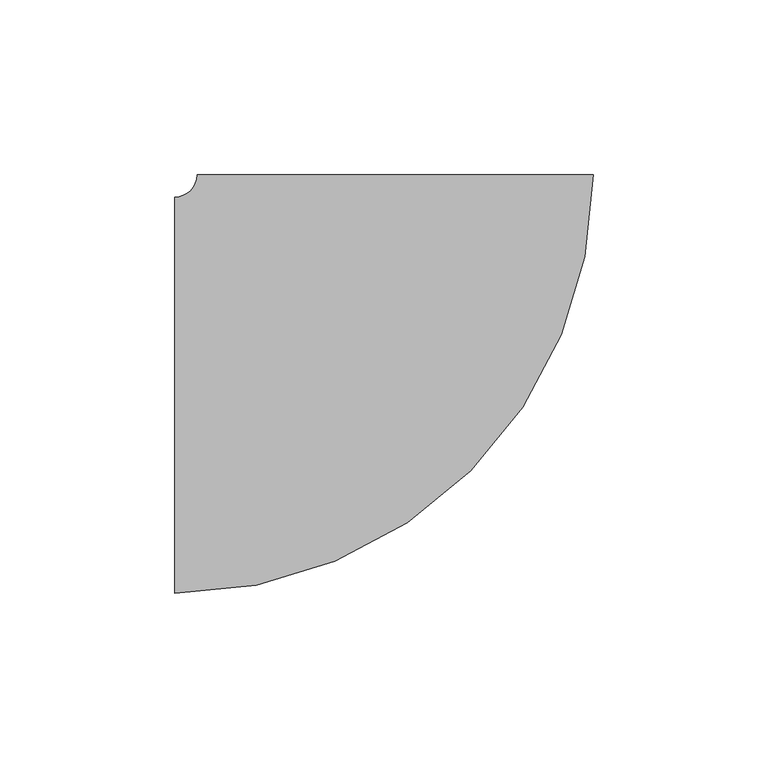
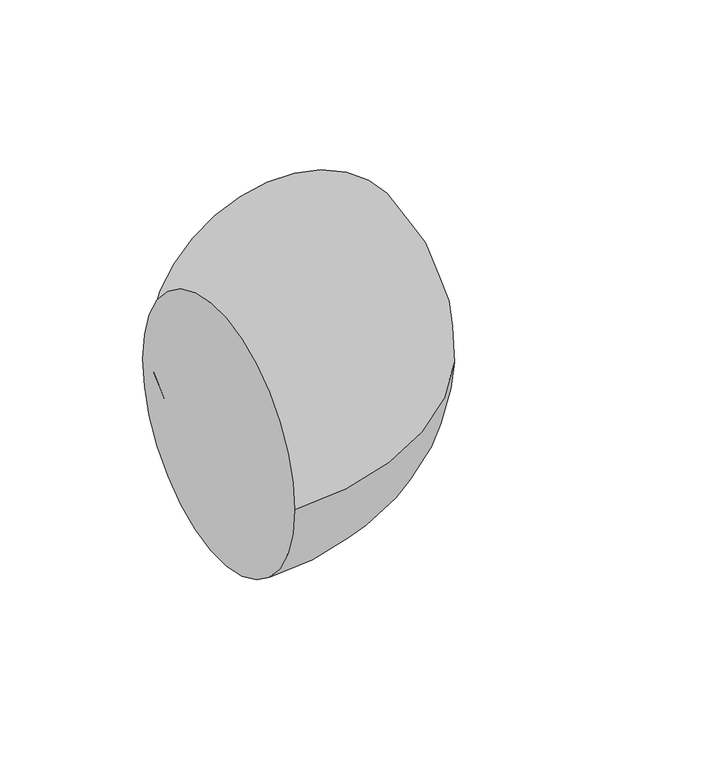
"""IFC4 building model written with IfcOpenShell, lengths in millimetres: pipe fitting geometry, M_Codo - Genérico : Estándar."""

from ifc_helpers import new_model, si_unit, point, frame, origin, place, context, project, spatial, circle_curve, ellipse_curve, trimmed, source, transform, mapped, element, save
from ifc_brep_helpers import plane_surface, revolved_surface, advanced_brep


def pipe_fitting_9c2f0113(model_context):
    return source(origin(), model_context, "Body", "AdvancedBrep", [
        advanced_brep(
        [(-62.9401141, -56.5875, 0.0), (-62.9401141, 56.5875, 0.0), (56.5848858, 62.9424644, 0.0), (-56.5901141, 62.9377637, 0.0)],
        [
            (0, 1, circle_curve(frame((-62.9401141, 0.0, 0.0), z_axis=(-1.0, 0.0, 0.0), x_axis=(0.0, 1.0, 0.0)), 56.5875)),
            (1, 0, circle_curve(frame((-62.9401141, 0.0, 0.0), z_axis=(-1.0, 0.0, 0.0), x_axis=(0.0, 1.0, 0.0)), 56.5875)),
            (2, 3, circle_curve(frame((-0.0026142, 62.9401141, 0.0), z_axis=(-4.153468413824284e-05, 0.999999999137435, 0.0), x_axis=(-0.999999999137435, -4.153468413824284e-05, 0.0)), 56.5875)),
            (3, 2, circle_curve(frame((-0.0026142, 62.9401141, 0.0), z_axis=(-4.153468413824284e-05, 0.999999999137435, 0.0), x_axis=(-0.999999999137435, -4.153468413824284e-05, 0.0)), 56.5875)),
            (3, 1, circle_curve(frame((-62.9401141, 62.9375, 0.0), z_axis=(0.0, 0.0, -1.0), x_axis=(0.0, -1.0, 0.0)), 6.35)),
            (0, 2, circle_curve(frame((-62.9401141, 62.9375, 0.0), z_axis=(0.0, 0.0, 1.0), x_axis=(0.0, -1.0, 0.0)), 119.525)),
        ],
        [
            plane_surface(frame((-62.9401141, 0.0, 0.0), z_axis=(-1.0, 0.0, 0.0), x_axis=(0.0, 0.0, 1.0))),
            plane_surface(frame((-0.0026142, 62.9401141, 0.0), z_axis=(-4.1534684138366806e-05, 0.9999999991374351, 0.0), x_axis=(0.0, 0.0, 1.0))),
            revolved_surface(trimmed(ellipse_curve(frame((-62.9401141, 0.0, 0.0), z_axis=(-1.0, 0.0, 0.0), x_axis=(0.0, 1.0, 0.0)), 56.5875, 56.5875), [point((-62.9401141, -56.5875, 0.0))], [point((-62.9401141, 56.5875, 0.0))], True, "CARTESIAN"), (-62.9401141, 62.9375, 0.0), (0.0, 0.0, 1.0)),
            revolved_surface(trimmed(ellipse_curve(frame((-62.9401141, 0.0, 0.0), z_axis=(-1.0, 0.0, 0.0), x_axis=(0.0, 1.0, 0.0)), 56.5875, 56.5875), [point((-62.9401141, 56.5875, 0.0))], [point((-62.9401141, -56.5875, 0.0))], True, "CARTESIAN"), (-62.9401141, 62.9375, 0.0), (0.0, 0.0, 1.0)),
        ],
        [
            (0, [[1, 2]]),
            (1, [[3, 4]]),
            (2, [[5, -1, 6, -4]]),
            (3, [[-6, -2, -5, -3]]),
        ],
    ),
    ])


if __name__ == "__main__":
    model = new_model("IFC4")
    model_context = context("Model", 3, world=origin())
    ifc_project = project(units=[si_unit("LENGTHUNIT", "METRE", prefix="MILLI")], contexts=[model_context])
    site = spatial("IfcSite", under=ifc_project)
    building = spatial("IfcBuilding", under=site)
    placement = place(None, origin())
    pipe_fitting_shape = pipe_fitting_9c2f0113(model_context)
    element("IfcPipeFitting", 1, ObjectType="M_Codo - Genérico : Estándar", at=placement, inside=building, context=model_context, shape_type="MappedRepresentation", body=[
        mapped(pipe_fitting_shape, transform((0.0, 0.0, 0.0), x_axis=(1.0, 0.0, 0.0), y_axis=(0.0, 1.0, 0.0), z_axis=(0.0, 0.0, 1.0))),
    ])
    save(model, "model.ifc")
